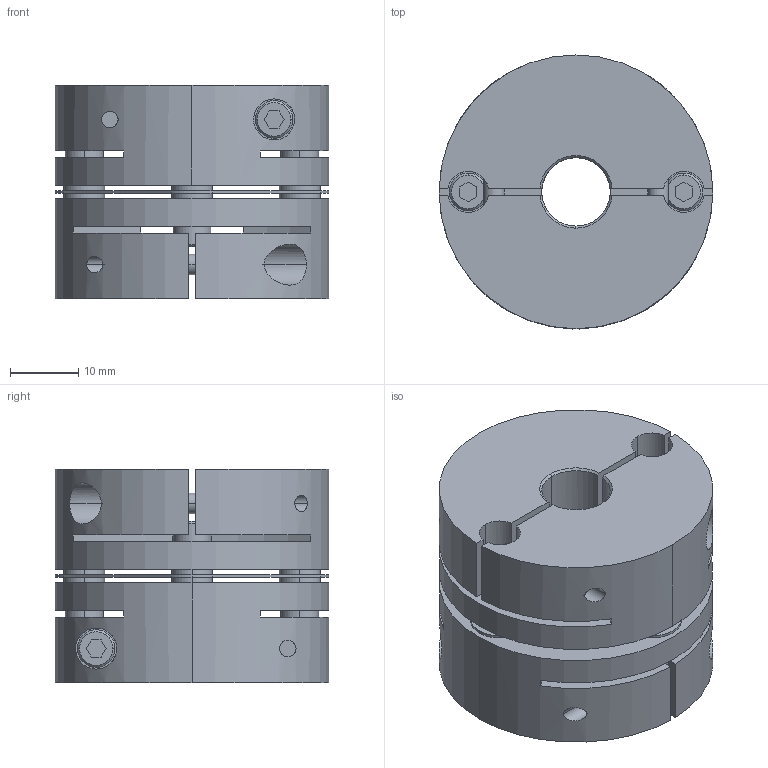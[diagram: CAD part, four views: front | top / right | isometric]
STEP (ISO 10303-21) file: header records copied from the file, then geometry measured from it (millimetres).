
FILE_DESCRIPTION((''),'2;1');
FILE_NAME('LAS-40C-10×18.stp','2014-02-05T08:58:31',(''),(''),'AutoCAD STEP 2000i','AutoCAD 2000i',', , ');
FILE_SCHEMA(('CONFIG_CONTROL_DESIGN'));
Length unit declared in the file: millimetre
Products named in the file (6): LAS-40C-10×15; 忣兜1; LA-4002-D15; LA-4002-D10-1; LA-4002-D10; LAS40-ITA
Assembly tree (5 placements, depth 2):
  LAS-40C-10×15
    忣兜1
    LA-4002-D15
    LA-4002-D10-1
    LA-4002-D10
    LAS40-ITA
Bounding box: 40 x 40 x 31.2 mm (x, y, z)
Volume: 29278.2 mm3; surface area: 15185.9 mm2
Topology: 1 solids, 1 shells, 236 faces, 624 edges, 408 vertices
Faces by surface type: plane 112, cylinder 96, cone 28
Entity records: 8177 total; most frequent: CARTESIAN_POINT 1970, DIRECTION 1304, ORIENTED_EDGE 1248, EDGE_CURVE 624, AXIS2_PLACEMENT_3D 478, VERTEX_POINT 408, VECTOR 348, LINE 348
